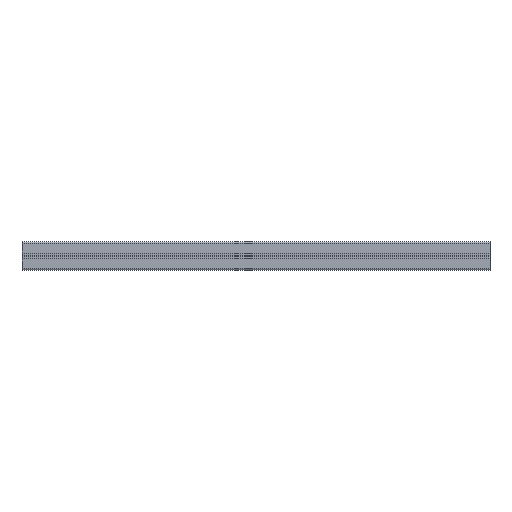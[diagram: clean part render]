
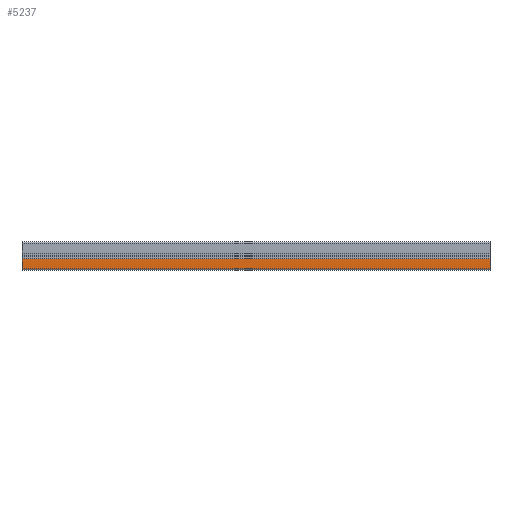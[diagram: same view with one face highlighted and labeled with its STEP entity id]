
A CAD part, front view. The second image highlights one B-rep face of the part: STEP entity #5237.
In plain terms, the highlighted planar face has unit normal (0, -1, 0).
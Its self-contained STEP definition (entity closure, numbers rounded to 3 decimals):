
#181 = DIRECTION ( 'NONE',  ( 1., 0., 0. ) ) ;
#461 = LINE ( 'NONE', #2074, #4744 ) ;
#503 = CARTESIAN_POINT ( 'NONE',  ( 1000., -30., -6.15 ) ) ;
#658 = ORIENTED_EDGE ( 'NONE', *, *, #1246, .T. ) ;
#678 = VERTEX_POINT ( 'NONE', #6963 ) ;
#844 = EDGE_CURVE ( 'NONE', #2627, #4147, #461, .T. ) ;
#1246 = EDGE_CURVE ( 'NONE', #678, #4147, #10525, .T. ) ;
#1500 = EDGE_CURVE ( 'NONE', #7041, #678, #8018, .T. ) ;
#2022 = FACE_OUTER_BOUND ( 'NONE', #4107, .T. ) ;
#2074 = CARTESIAN_POINT ( 'NONE',  ( 1000., -30., -6.15 ) ) ;
#2202 = CARTESIAN_POINT ( 'NONE',  ( 0., -30., -6.15 ) ) ;
#2627 = VERTEX_POINT ( 'NONE', #503 ) ;
#2949 = DIRECTION ( 'NONE',  ( 0., 0., -1. ) ) ;
#3435 = PLANE ( 'NONE',  #7067 ) ;
#3914 = CARTESIAN_POINT ( 'NONE',  ( 0., -30., -6.15 ) ) ;
#4025 = VECTOR ( 'NONE', #181, 1000. ) ;
#4107 = EDGE_LOOP ( 'NONE', ( #9530, #7771, #4577, #658 ) ) ;
#4147 = VERTEX_POINT ( 'NONE', #7669 ) ;
#4577 = ORIENTED_EDGE ( 'NONE', *, *, #1500, .T. ) ;
#4744 = VECTOR ( 'NONE', #2949, 1000. ) ;
#5098 = CARTESIAN_POINT ( 'NONE',  ( 0., -30., -6.15 ) ) ;
#5138 = DIRECTION ( 'NONE',  ( 0., 0., -1. ) ) ;
#5237 = ADVANCED_FACE ( 'NONE', ( #2022 ), #3435, .T. ) ;
#5302 = CARTESIAN_POINT ( 'NONE',  ( 0., -30., -27. ) ) ;
#6488 = DIRECTION ( 'NONE',  ( 0., 0., -1. ) ) ;
#6714 = EDGE_CURVE ( 'NONE', #7041, #2627, #7710, .T. ) ;
#6816 = DIRECTION ( 'NONE',  ( 1., 0., 0. ) ) ;
#6963 = CARTESIAN_POINT ( 'NONE',  ( 0., -30., -27. ) ) ;
#7041 = VERTEX_POINT ( 'NONE', #3914 ) ;
#7067 = AXIS2_PLACEMENT_3D ( 'NONE', #9363, #10234, #5138 ) ;
#7436 = VECTOR ( 'NONE', #6816, 1000. ) ;
#7669 = CARTESIAN_POINT ( 'NONE',  ( 1000., -30., -27. ) ) ;
#7710 = LINE ( 'NONE', #5098, #7436 ) ;
#7771 = ORIENTED_EDGE ( 'NONE', *, *, #6714, .F. ) ;
#8018 = LINE ( 'NONE', #2202, #10015 ) ;
#9363 = CARTESIAN_POINT ( 'NONE',  ( 0., -30., -6.15 ) ) ;
#9530 = ORIENTED_EDGE ( 'NONE', *, *, #844, .F. ) ;
#10015 = VECTOR ( 'NONE', #6488, 1000. ) ;
#10234 = DIRECTION ( 'NONE',  ( 0., -1., 0. ) ) ;
#10525 = LINE ( 'NONE', #5302, #4025 ) ;
